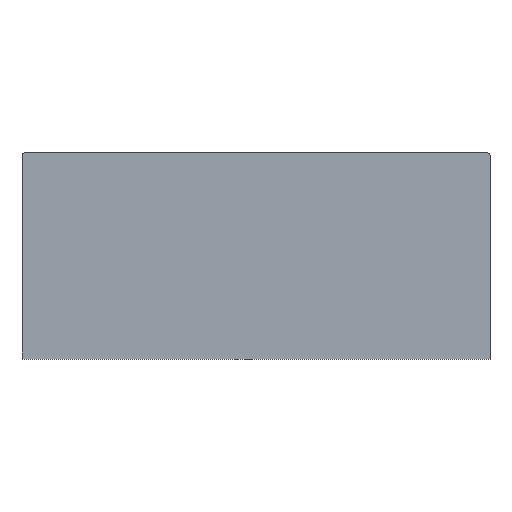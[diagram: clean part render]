
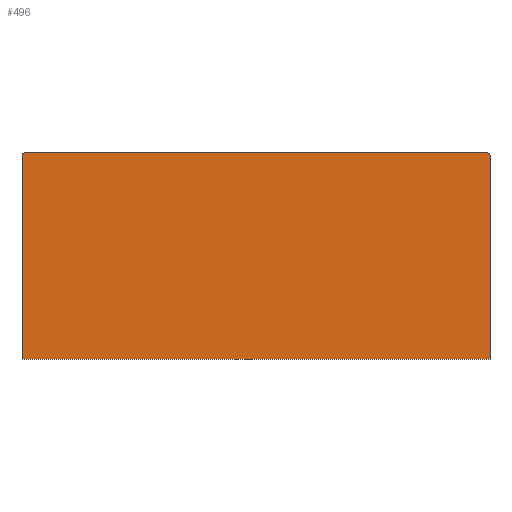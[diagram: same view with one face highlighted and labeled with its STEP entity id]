
A CAD part, top view. The second image highlights one B-rep face of the part: STEP entity #496.
In plain terms, the highlighted planar face has unit normal (0, 0, 1).
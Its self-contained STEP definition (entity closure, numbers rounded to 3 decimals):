
#24 = VERTEX_POINT('',#25);
#25 = CARTESIAN_POINT('',(-293.,0.,2.));
#32 = PLANE('',#33);
#33 = AXIS2_PLACEMENT_3D('',#34,#35,#36);
#34 = CARTESIAN_POINT('',(-293.,0.,0.));
#35 = DIRECTION('',(0.,1.,0.));
#36 = DIRECTION('',(1.,0.,0.));
#44 = PLANE('',#45);
#45 = AXIS2_PLACEMENT_3D('',#46,#47,#48);
#46 = CARTESIAN_POINT('',(-293.,255.,0.));
#47 = DIRECTION('',(1.,0.,-0.));
#48 = DIRECTION('',(0.,-1.,0.));
#56 = EDGE_CURVE('',#24,#57,#59,.T.);
#57 = VERTEX_POINT('',#58);
#58 = CARTESIAN_POINT('',(293.,0.,2.));
#59 = SURFACE_CURVE('',#60,(#64,#71),.PCURVE_S1.);
#60 = LINE('',#61,#62);
#61 = CARTESIAN_POINT('',(-293.,0.,2.));
#62 = VECTOR('',#63,1.);
#63 = DIRECTION('',(1.,0.,0.));
#64 = PCURVE('',#32,#65);
#65 = DEFINITIONAL_REPRESENTATION('',(#66),#70);
#66 = LINE('',#67,#68);
#67 = CARTESIAN_POINT('',(0.,-2.));
#68 = VECTOR('',#69,1.);
#69 = DIRECTION('',(1.,0.));
#70 = ( GEOMETRIC_REPRESENTATION_CONTEXT(2) 
PARAMETRIC_REPRESENTATION_CONTEXT() REPRESENTATION_CONTEXT('2D SPACE',''
  ) );
#71 = PCURVE('',#72,#77);
#72 = PLANE('',#73);
#73 = AXIS2_PLACEMENT_3D('',#74,#75,#76);
#74 = CARTESIAN_POINT('',(0.,128.794,2.));
#75 = DIRECTION('',(0.,0.,1.));
#76 = DIRECTION('',(1.,0.,-0.));
#77 = DEFINITIONAL_REPRESENTATION('',(#78),#82);
#78 = LINE('',#79,#80);
#79 = CARTESIAN_POINT('',(-293.,-128.794));
#80 = VECTOR('',#81,1.);
#81 = DIRECTION('',(1.,0.));
#82 = ( GEOMETRIC_REPRESENTATION_CONTEXT(2) 
PARAMETRIC_REPRESENTATION_CONTEXT() REPRESENTATION_CONTEXT('2D SPACE',''
  ) );
#100 = PLANE('',#101);
#101 = AXIS2_PLACEMENT_3D('',#102,#103,#104);
#102 = CARTESIAN_POINT('',(293.,0.,0.));
#103 = DIRECTION('',(-1.,0.,0.));
#104 = DIRECTION('',(0.,1.,0.));
#142 = EDGE_CURVE('',#57,#143,#145,.T.);
#143 = VERTEX_POINT('',#144);
#144 = CARTESIAN_POINT('',(293.,255.,2.));
#145 = SURFACE_CURVE('',#146,(#150,#157),.PCURVE_S1.);
#146 = LINE('',#147,#148);
#147 = CARTESIAN_POINT('',(293.,0.,2.));
#148 = VECTOR('',#149,1.);
#149 = DIRECTION('',(0.,1.,0.));
#150 = PCURVE('',#100,#151);
#151 = DEFINITIONAL_REPRESENTATION('',(#152),#156);
#152 = LINE('',#153,#154);
#153 = CARTESIAN_POINT('',(0.,-2.));
#154 = VECTOR('',#155,1.);
#155 = DIRECTION('',(1.,0.));
#156 = ( GEOMETRIC_REPRESENTATION_CONTEXT(2) 
PARAMETRIC_REPRESENTATION_CONTEXT() REPRESENTATION_CONTEXT('2D SPACE',''
  ) );
#157 = PCURVE('',#72,#158);
#158 = DEFINITIONAL_REPRESENTATION('',(#159),#163);
#159 = LINE('',#160,#161);
#160 = CARTESIAN_POINT('',(293.,-128.794));
#161 = VECTOR('',#162,1.);
#162 = DIRECTION('',(0.,1.));
#163 = ( GEOMETRIC_REPRESENTATION_CONTEXT(2) 
PARAMETRIC_REPRESENTATION_CONTEXT() REPRESENTATION_CONTEXT('2D SPACE',''
  ) );
#181 = CYLINDRICAL_SURFACE('',#182,3.);
#182 = AXIS2_PLACEMENT_3D('',#183,#184,#185);
#183 = CARTESIAN_POINT('',(290.,255.,0.));
#184 = DIRECTION('',(-0.,-0.,-1.));
#185 = DIRECTION('',(1.,0.,-0.));
#218 = EDGE_CURVE('',#143,#219,#221,.T.);
#219 = VERTEX_POINT('',#220);
#220 = CARTESIAN_POINT('',(290.,258.,2.));
#221 = SURFACE_CURVE('',#222,(#227,#234),.PCURVE_S1.);
#222 = CIRCLE('',#223,3.);
#223 = AXIS2_PLACEMENT_3D('',#224,#225,#226);
#224 = CARTESIAN_POINT('',(290.,255.,2.));
#225 = DIRECTION('',(0.,0.,1.));
#226 = DIRECTION('',(1.,0.,-0.));
#227 = PCURVE('',#181,#228);
#228 = DEFINITIONAL_REPRESENTATION('',(#229),#233);
#229 = LINE('',#230,#231);
#230 = CARTESIAN_POINT('',(-0.,-2.));
#231 = VECTOR('',#232,1.);
#232 = DIRECTION('',(-1.,0.));
#233 = ( GEOMETRIC_REPRESENTATION_CONTEXT(2) 
PARAMETRIC_REPRESENTATION_CONTEXT() REPRESENTATION_CONTEXT('2D SPACE',''
  ) );
#234 = PCURVE('',#72,#235);
#235 = DEFINITIONAL_REPRESENTATION('',(#236),#240);
#236 = CIRCLE('',#237,3.);
#237 = AXIS2_PLACEMENT_2D('',#238,#239);
#238 = CARTESIAN_POINT('',(290.,126.206));
#239 = DIRECTION('',(1.,0.));
#240 = ( GEOMETRIC_REPRESENTATION_CONTEXT(2) 
PARAMETRIC_REPRESENTATION_CONTEXT() REPRESENTATION_CONTEXT('2D SPACE',''
  ) );
#258 = PLANE('',#259);
#259 = AXIS2_PLACEMENT_3D('',#260,#261,#262);
#260 = CARTESIAN_POINT('',(290.,258.,0.));
#261 = DIRECTION('',(0.,-1.,0.));
#262 = DIRECTION('',(-1.,0.,0.));
#296 = EDGE_CURVE('',#219,#297,#299,.T.);
#297 = VERTEX_POINT('',#298);
#298 = CARTESIAN_POINT('',(-290.,258.,2.));
#299 = SURFACE_CURVE('',#300,(#304,#311),.PCURVE_S1.);
#300 = LINE('',#301,#302);
#301 = CARTESIAN_POINT('',(290.,258.,2.));
#302 = VECTOR('',#303,1.);
#303 = DIRECTION('',(-1.,0.,0.));
#304 = PCURVE('',#258,#305);
#305 = DEFINITIONAL_REPRESENTATION('',(#306),#310);
#306 = LINE('',#307,#308);
#307 = CARTESIAN_POINT('',(0.,-2.));
#308 = VECTOR('',#309,1.);
#309 = DIRECTION('',(1.,0.));
#310 = ( GEOMETRIC_REPRESENTATION_CONTEXT(2) 
PARAMETRIC_REPRESENTATION_CONTEXT() REPRESENTATION_CONTEXT('2D SPACE',''
  ) );
#311 = PCURVE('',#72,#312);
#312 = DEFINITIONAL_REPRESENTATION('',(#313),#317);
#313 = LINE('',#314,#315);
#314 = CARTESIAN_POINT('',(290.,129.206));
#315 = VECTOR('',#316,1.);
#316 = DIRECTION('',(-1.,0.));
#317 = ( GEOMETRIC_REPRESENTATION_CONTEXT(2) 
PARAMETRIC_REPRESENTATION_CONTEXT() REPRESENTATION_CONTEXT('2D SPACE',''
  ) );
#335 = CYLINDRICAL_SURFACE('',#336,3.);
#336 = AXIS2_PLACEMENT_3D('',#337,#338,#339);
#337 = CARTESIAN_POINT('',(-290.,255.,0.));
#338 = DIRECTION('',(-0.,-0.,-1.));
#339 = DIRECTION('',(1.,0.,-0.));
#372 = EDGE_CURVE('',#297,#373,#375,.T.);
#373 = VERTEX_POINT('',#374);
#374 = CARTESIAN_POINT('',(-293.,255.,2.));
#375 = SURFACE_CURVE('',#376,(#381,#388),.PCURVE_S1.);
#376 = CIRCLE('',#377,3.);
#377 = AXIS2_PLACEMENT_3D('',#378,#379,#380);
#378 = CARTESIAN_POINT('',(-290.,255.,2.));
#379 = DIRECTION('',(0.,0.,1.));
#380 = DIRECTION('',(1.,0.,-0.));
#381 = PCURVE('',#335,#382);
#382 = DEFINITIONAL_REPRESENTATION('',(#383),#387);
#383 = LINE('',#384,#385);
#384 = CARTESIAN_POINT('',(-0.,-2.));
#385 = VECTOR('',#386,1.);
#386 = DIRECTION('',(-1.,0.));
#387 = ( GEOMETRIC_REPRESENTATION_CONTEXT(2) 
PARAMETRIC_REPRESENTATION_CONTEXT() REPRESENTATION_CONTEXT('2D SPACE',''
  ) );
#388 = PCURVE('',#72,#389);
#389 = DEFINITIONAL_REPRESENTATION('',(#390),#394);
#390 = CIRCLE('',#391,3.);
#391 = AXIS2_PLACEMENT_2D('',#392,#393);
#392 = CARTESIAN_POINT('',(-290.,126.206));
#393 = DIRECTION('',(1.,0.));
#394 = ( GEOMETRIC_REPRESENTATION_CONTEXT(2) 
PARAMETRIC_REPRESENTATION_CONTEXT() REPRESENTATION_CONTEXT('2D SPACE',''
  ) );
#445 = EDGE_CURVE('',#373,#24,#446,.T.);
#446 = SURFACE_CURVE('',#447,(#451,#458),.PCURVE_S1.);
#447 = LINE('',#448,#449);
#448 = CARTESIAN_POINT('',(-293.,255.,2.));
#449 = VECTOR('',#450,1.);
#450 = DIRECTION('',(0.,-1.,0.));
#451 = PCURVE('',#44,#452);
#452 = DEFINITIONAL_REPRESENTATION('',(#453),#457);
#453 = LINE('',#454,#455);
#454 = CARTESIAN_POINT('',(0.,-2.));
#455 = VECTOR('',#456,1.);
#456 = DIRECTION('',(1.,0.));
#457 = ( GEOMETRIC_REPRESENTATION_CONTEXT(2) 
PARAMETRIC_REPRESENTATION_CONTEXT() REPRESENTATION_CONTEXT('2D SPACE',''
  ) );
#458 = PCURVE('',#72,#459);
#459 = DEFINITIONAL_REPRESENTATION('',(#460),#464);
#460 = LINE('',#461,#462);
#461 = CARTESIAN_POINT('',(-293.,126.206));
#462 = VECTOR('',#463,1.);
#463 = DIRECTION('',(0.,-1.));
#464 = ( GEOMETRIC_REPRESENTATION_CONTEXT(2) 
PARAMETRIC_REPRESENTATION_CONTEXT() REPRESENTATION_CONTEXT('2D SPACE',''
  ) );
#496 = ADVANCED_FACE('',(#497),#72,.T.);
#497 = FACE_BOUND('',#498,.T.);
#498 = EDGE_LOOP('',(#499,#500,#501,#502,#503,#504));
#499 = ORIENTED_EDGE('',*,*,#56,.T.);
#500 = ORIENTED_EDGE('',*,*,#142,.T.);
#501 = ORIENTED_EDGE('',*,*,#218,.T.);
#502 = ORIENTED_EDGE('',*,*,#296,.T.);
#503 = ORIENTED_EDGE('',*,*,#372,.T.);
#504 = ORIENTED_EDGE('',*,*,#445,.T.);
